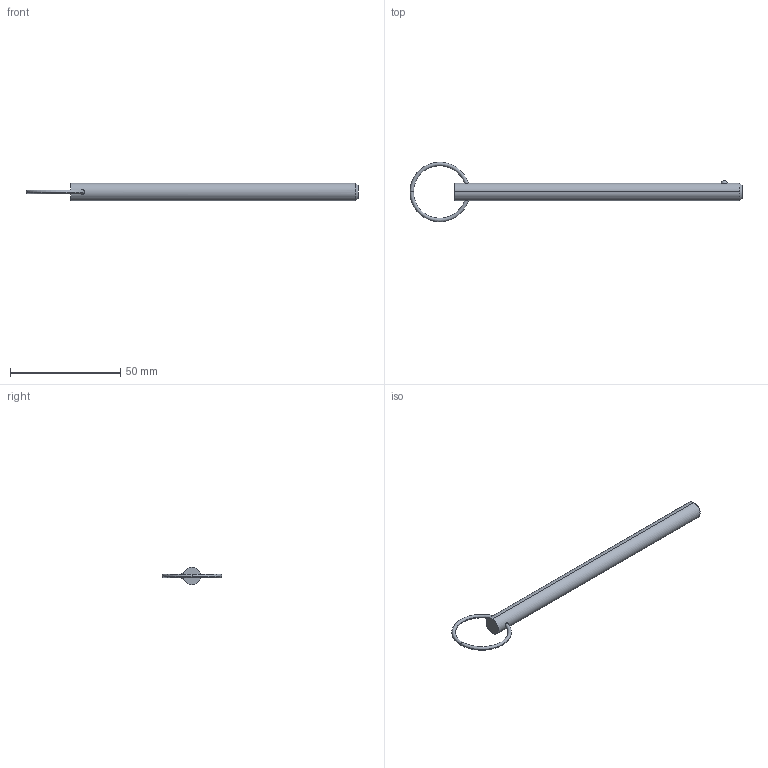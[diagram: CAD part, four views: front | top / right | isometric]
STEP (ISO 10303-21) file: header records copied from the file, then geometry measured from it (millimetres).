
FILE_DESCRIPTION (( 'STEP AP203' ), '1' );
FILE_NAME ('33012.W3145.step', '2024-11-01T14:08:59', ( '' ), ( '' ), 'SwSTEP 2.0', 'SolidWorks 2019', '' );
FILE_SCHEMA (( 'CONFIG_CONTROL_DESIGN' ));
Length unit declared in the file: millimetre
Products named in the file (3): 33012.W3145; Part2_33012.W3145; Part1_33012.W3145
Assembly tree (2 placements, depth 2):
  33012.W3145
    Part1_33012.W3145
    Part2_33012.W3145
Bounding box: 150.43 x 26.99 x 7.94 mm (x, y, z)
Volume: 6573.1 mm3; surface area: 3776.8 mm2
Topology: 2 solids, 2 shells, 16 faces, 31 edges, 18 vertices
Faces by surface type: torus 8, sphere 2, cone 2, cylinder 2, plane 2
Entity records: 829 total; most frequent: CARTESIAN_POINT 186, DIRECTION 88, ORIENTED_EDGE 62, AXIS2_PLACEMENT_3D 42, EDGE_CURVE 31, PERSON_AND_ORGANIZATION 26, CIRCLE 21, DATE_AND_TIME 19
